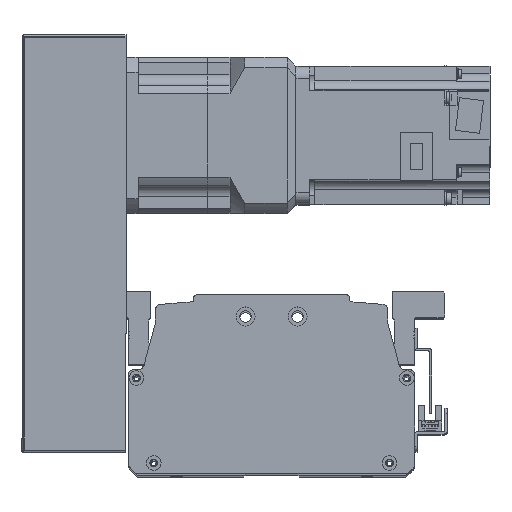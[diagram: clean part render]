
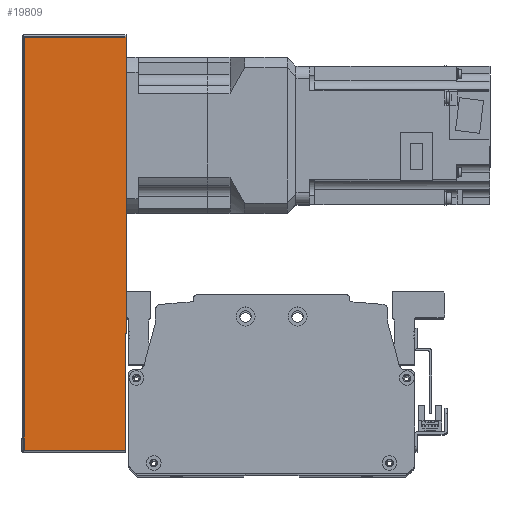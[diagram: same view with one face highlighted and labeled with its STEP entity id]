
A CAD part, top view. The second image highlights one B-rep face of the part: STEP entity #19809.
In plain terms, the highlighted planar face has unit normal (0, 0, 1) as drawn and (0, -1, 0) by its records, which use the part's own axes.
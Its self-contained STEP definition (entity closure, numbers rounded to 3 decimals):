
#583=PLANE('',#21583);
#1704=LINE('',#31755,#3364);
#1727=LINE('',#31842,#3387);
#1728=LINE('',#31850,#3388);
#1736=LINE('',#31876,#3396);
#3364=VECTOR('',#25675,10.);
#3387=VECTOR('',#25786,10.);
#3388=VECTOR('',#25797,10.);
#3396=VECTOR('',#25833,10.);
#5336=FACE_OUTER_BOUND('',#6720,.T.);
#6720=EDGE_LOOP('',(#16086,#16087,#16088,#16089));
#9540=VERTEX_POINT('',#31752);
#9541=VERTEX_POINT('',#31754);
#9561=VERTEX_POINT('',#31838);
#9562=VERTEX_POINT('',#31844);
#11875=EDGE_CURVE('',#9540,#9541,#1704,.T.);
#11920=EDGE_CURVE('',#9541,#9561,#1727,.T.);
#11924=EDGE_CURVE('',#9562,#9540,#1728,.T.);
#11938=EDGE_CURVE('',#9561,#9562,#1736,.T.);
#16086=ORIENTED_EDGE('',*,*,#11920,.F.);
#16087=ORIENTED_EDGE('',*,*,#11875,.F.);
#16088=ORIENTED_EDGE('',*,*,#11924,.F.);
#16089=ORIENTED_EDGE('',*,*,#11938,.F.);
#19809=ADVANCED_FACE('',(#5336),#583,.T.);
#21583=AXIS2_PLACEMENT_3D('',#31881,#25842,#25843);
#25675=DIRECTION('',(1.,0.,0.));
#25786=DIRECTION('',(0.,0.,-1.));
#25797=DIRECTION('',(0.,0.,1.));
#25833=DIRECTION('',(-1.,0.,0.));
#25842=DIRECTION('center_axis',(0.,-1.,0.));
#25843=DIRECTION('ref_axis',(1.,0.,0.));
#31752=CARTESIAN_POINT('',(-119.5,-51.,30.));
#31754=CARTESIAN_POINT('',(119.5,-51.,30.));
#31755=CARTESIAN_POINT('',(120.5,-51.,30.));
#31838=CARTESIAN_POINT('',(119.5,-51.,-29.));
#31842=CARTESIAN_POINT('',(119.5,-51.,0.));
#31844=CARTESIAN_POINT('',(-119.5,-51.,-29.));
#31850=CARTESIAN_POINT('',(-119.5,-51.,0.));
#31876=CARTESIAN_POINT('',(-60.25,-51.,-29.));
#31881=CARTESIAN_POINT('Origin',(-120.5,-51.,0.));
